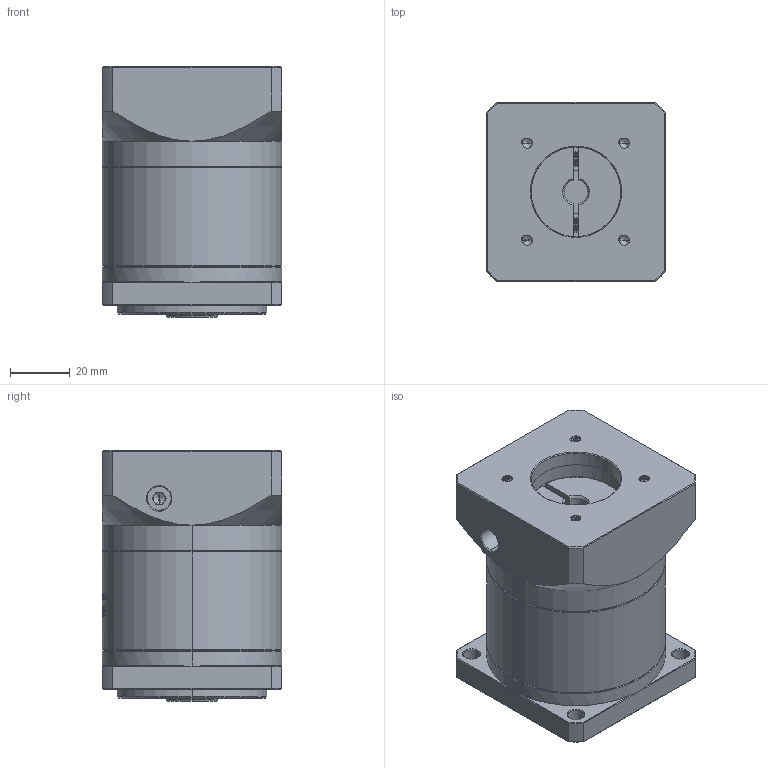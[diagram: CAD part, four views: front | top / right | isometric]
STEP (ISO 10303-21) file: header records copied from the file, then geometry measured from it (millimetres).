
FILE_DESCRIPTION (( 'STEP AP214' ), '1' );
FILE_NAME ('ZF60-K10-L1-8-30-46-M4.STEP', '2022-04-17T11:27:08', ( '' ), ( 'Microsoft' ), 'SwSTEP 2.0', 'SolidWorks 2016', '' );
FILE_SCHEMA (( 'AUTOMOTIVE_DESIGN' ));
Length unit declared in the file: millimetre
Products named in the file (1): ZF60-K10-L1-8-30-46-M4
Bounding box: 60 x 60 x 84 mm (x, y, z)
Volume: 221607.8 mm3; surface area: 43432.4 mm2
Topology: 6 solids, 6 shells, 1552 faces, 4199 edges, 2722 vertices
Faces by surface type: plane 737, bspline 292, cylinder 284, cone 221, torus 18
Entity records: 82552 total; most frequent: CARTESIAN_POINT 29821, ORIENTED_EDGE 8374, DIRECTION 6188, EDGE_CURVE 4187, VERTEX_POINT 2722, VECTOR 2152, LINE 2152, AXIS2_PLACEMENT_3D 2018
